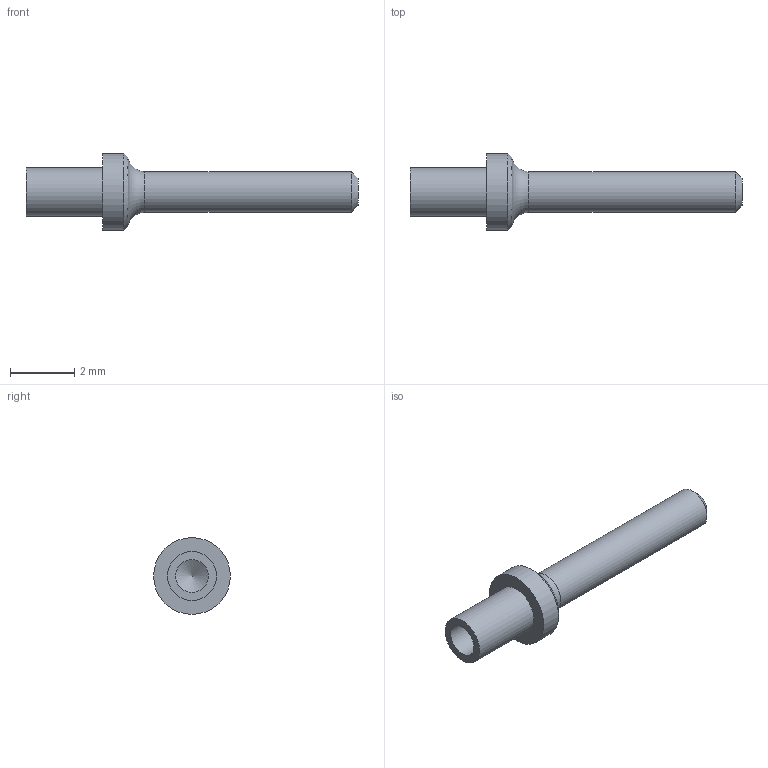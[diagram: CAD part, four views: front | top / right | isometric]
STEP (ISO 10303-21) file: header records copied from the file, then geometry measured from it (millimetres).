
FILE_DESCRIPTION(/* description */ (''),/* implementation_level */ '2;1');
FILE_NAME(/* name */ 'Z:\STEP folder\120-1133-02.ipt.stp',/* time_stamp */ '2016-12-07T10:27:10+00:00',/* author */ ('Paul Karlsons'),/* organization */ (''),/* preprocessor_version */ 'ST-DEVELOPER v15.2',/* originating_system */ 'Autodesk Inventor 2014',/* authorisation */ '');
FILE_SCHEMA (('AUTOMOTIVE_DESIGN { 1 0 10303 214 3 1 1 }'));
Length unit declared in the file: millimetre
Products named in the file (1): 120-1133-02
Bounding box: 10.34 x 2.39 x 2.39 mm (x, y, z)
Volume: 15.5 mm3; surface area: 58.9 mm2
Topology: 1 solids, 1 shells, 11 faces, 20 edges, 12 vertices
Faces by surface type: cylinder 4, cone 3, plane 3, torus 1
Full cylindrical faces by diameter (mm): 1.016 x1, 1.27 x1, 1.524 x1, 2.388 x1
Entity records: 235 total; most frequent: DIRECTION 44, CARTESIAN_POINT 32, AXIS2_PLACEMENT_3D 22, EDGE_LOOP 20, ORIENTED_EDGE 20, ADVANCED_FACE 11, FACE_BOUND 10, FACE_OUTER_BOUND 10
